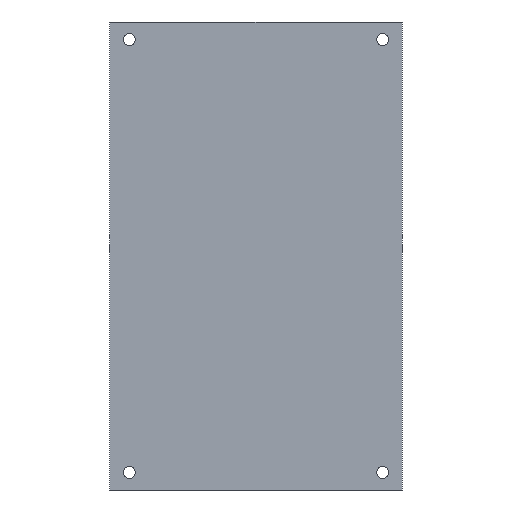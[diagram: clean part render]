
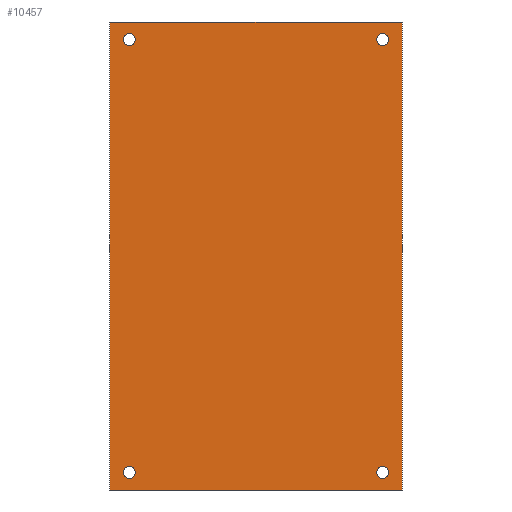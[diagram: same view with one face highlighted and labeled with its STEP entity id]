
A CAD part, front view. The second image highlights one B-rep face of the part: STEP entity #10457.
In plain terms, the highlighted planar face has unit normal (0, -1, 0).
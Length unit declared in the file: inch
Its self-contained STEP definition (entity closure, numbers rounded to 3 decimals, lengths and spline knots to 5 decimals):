
#427=FACE_BOUND('',#4416,.T.);
#428=FACE_BOUND('',#4417,.T.);
#429=FACE_BOUND('',#4418,.T.);
#430=FACE_BOUND('',#4419,.T.);
#1228=LINE('',#18282,#2017);
#1230=LINE('',#18286,#2019);
#1233=LINE('',#18291,#2022);
#1237=LINE('',#18321,#2026);
#2017=VECTOR('',#14488,0.3937);
#2019=VECTOR('',#14492,0.3937);
#2022=VECTOR('',#14497,0.3937);
#2026=VECTOR('',#14537,0.3937);
#2364=PLANE('',#11581);
#3568=FACE_OUTER_BOUND('',#4415,.T.);
#4415=EDGE_LOOP('',(#9605,#9606,#9607,#9608));
#4416=EDGE_LOOP('',(#9609));
#4417=EDGE_LOOP('',(#9610));
#4418=EDGE_LOOP('',(#9611));
#4419=EDGE_LOOP('',(#9612));
#4898=CIRCLE('',#11568,0.06693);
#4900=CIRCLE('',#11571,0.06693);
#4902=CIRCLE('',#11574,0.06693);
#4904=CIRCLE('',#11577,0.06693);
#5769=VERTEX_POINT('',#18279);
#5770=VERTEX_POINT('',#18281);
#5771=VERTEX_POINT('',#18285);
#5772=VERTEX_POINT('',#18290);
#5773=VERTEX_POINT('',#18298);
#5775=VERTEX_POINT('',#18303);
#5777=VERTEX_POINT('',#18308);
#5779=VERTEX_POINT('',#18313);
#7055=EDGE_CURVE('',#5770,#5769,#1228,.T.);
#7057=EDGE_CURVE('',#5771,#5770,#1230,.T.);
#7060=EDGE_CURVE('',#5772,#5771,#1233,.T.);
#7062=EDGE_CURVE('',#5773,#5773,#4898,.T.);
#7064=EDGE_CURVE('',#5775,#5775,#4900,.T.);
#7066=EDGE_CURVE('',#5777,#5777,#4902,.T.);
#7068=EDGE_CURVE('',#5779,#5779,#4904,.T.);
#7072=EDGE_CURVE('',#5769,#5772,#1237,.T.);
#9605=ORIENTED_EDGE('',*,*,#7072,.T.);
#9606=ORIENTED_EDGE('',*,*,#7060,.T.);
#9607=ORIENTED_EDGE('',*,*,#7057,.T.);
#9608=ORIENTED_EDGE('',*,*,#7055,.T.);
#9609=ORIENTED_EDGE('',*,*,#7062,.T.);
#9610=ORIENTED_EDGE('',*,*,#7064,.T.);
#9611=ORIENTED_EDGE('',*,*,#7066,.T.);
#9612=ORIENTED_EDGE('',*,*,#7068,.T.);
#10457=ADVANCED_FACE('',(#3568,#427,#428,#429,#430),#2364,.T.);
#11568=AXIS2_PLACEMENT_3D('',#18299,#14509,#14510);
#11571=AXIS2_PLACEMENT_3D('',#18304,#14515,#14516);
#11574=AXIS2_PLACEMENT_3D('',#18309,#14521,#14522);
#11577=AXIS2_PLACEMENT_3D('',#18314,#14527,#14528);
#11581=AXIS2_PLACEMENT_3D('',#18322,#14538,#14539);
#14488=DIRECTION('',(0.,0.,1.));
#14492=DIRECTION('',(1.,0.,0.));
#14497=DIRECTION('',(0.,0.,-1.));
#14509=DIRECTION('center_axis',(0.,1.,0.));
#14510=DIRECTION('ref_axis',(1.,0.,0.));
#14515=DIRECTION('center_axis',(0.,1.,0.));
#14516=DIRECTION('ref_axis',(1.,0.,0.));
#14521=DIRECTION('center_axis',(0.,1.,0.));
#14522=DIRECTION('ref_axis',(1.,0.,0.));
#14527=DIRECTION('center_axis',(0.,1.,0.));
#14528=DIRECTION('ref_axis',(1.,0.,0.));
#14537=DIRECTION('',(-1.,0.,0.));
#14538=DIRECTION('center_axis',(0.,-1.,0.));
#14539=DIRECTION('ref_axis',(0.,0.,-1.));
#18279=CARTESIAN_POINT('',(2.25577,-0.21318,2.45176));
#18281=CARTESIAN_POINT('',(2.25577,-0.21318,-2.78446));
#18282=CARTESIAN_POINT('',(2.25577,-0.21318,-2.78446));
#18285=CARTESIAN_POINT('',(-1.01194,-0.21318,-2.78446));
#18286=CARTESIAN_POINT('',(-1.01194,-0.21318,-2.78446));
#18290=CARTESIAN_POINT('',(-1.01194,-0.21318,2.45176));
#18291=CARTESIAN_POINT('',(-1.01194,-0.21318,2.45176));
#18298=CARTESIAN_POINT('',(1.97231,-0.21318,-2.58761));
#18299=CARTESIAN_POINT('Origin',(2.03924,-0.21318,-2.58761));
#18303=CARTESIAN_POINT('',(-0.86234,-0.21318,2.25491));
#18304=CARTESIAN_POINT('Origin',(-0.79541,-0.21318,
2.25491));
#18308=CARTESIAN_POINT('',(-0.86234,-0.21318,-2.58761));
#18309=CARTESIAN_POINT('Origin',(-0.79541,-0.21318,
-2.58761));
#18313=CARTESIAN_POINT('',(1.97231,-0.21318,2.25491));
#18314=CARTESIAN_POINT('Origin',(2.03924,-0.21318,2.25491));
#18321=CARTESIAN_POINT('',(2.25577,-0.21318,2.45176));
#18322=CARTESIAN_POINT('Origin',(0.62192,-0.21318,-0.16635));
